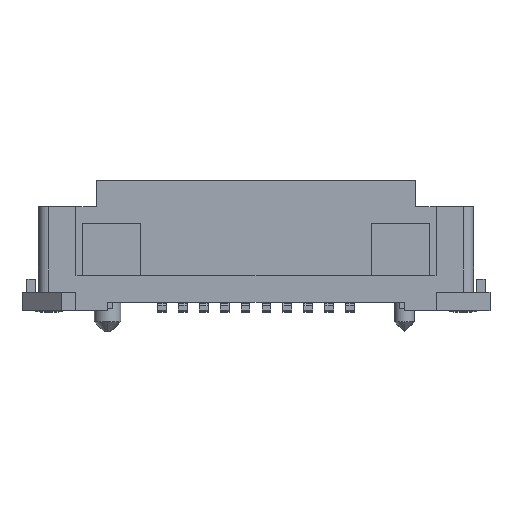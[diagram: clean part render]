
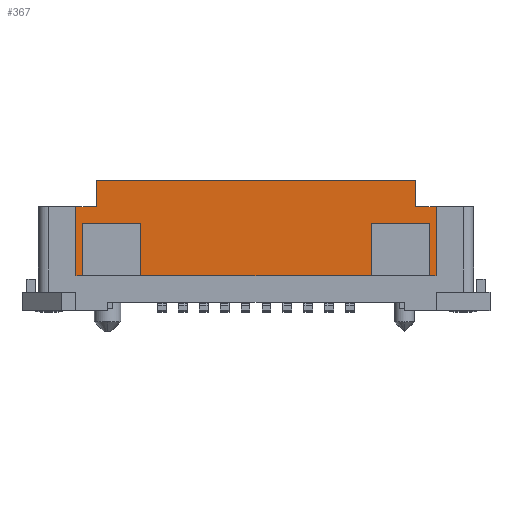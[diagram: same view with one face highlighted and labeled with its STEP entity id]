
A CAD part, top view. The second image highlights one B-rep face of the part: STEP entity #367.
In plain terms, the highlighted planar face has unit normal (0, 0, 1).
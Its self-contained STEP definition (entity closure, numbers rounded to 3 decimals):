
#367=ADVANCED_FACE('',(#1387),#907,.F.);
#907=PLANE('',#11824);
#1387=FACE_OUTER_BOUND('',#1944,.T.);
#1944=EDGE_LOOP('',(#3255,#3256,#3257,#3258,#3259,#3260,#3261,#3262,#3263,
#3264,#3265,#3266,#3267,#3268,#3269,#3270));
#3255=ORIENTED_EDGE('',*,*,#6511,.T.);
#3256=ORIENTED_EDGE('',*,*,#6991,.T.);
#3257=ORIENTED_EDGE('',*,*,#7051,.F.);
#3258=ORIENTED_EDGE('',*,*,#6879,.F.);
#3259=ORIENTED_EDGE('',*,*,#7052,.F.);
#3260=ORIENTED_EDGE('',*,*,#7053,.T.);
#3261=ORIENTED_EDGE('',*,*,#7048,.T.);
#3262=ORIENTED_EDGE('',*,*,#7040,.F.);
#3263=ORIENTED_EDGE('',*,*,#7054,.F.);
#3264=ORIENTED_EDGE('',*,*,#7034,.T.);
#3265=ORIENTED_EDGE('',*,*,#7045,.T.);
#3266=ORIENTED_EDGE('',*,*,#7036,.F.);
#3267=ORIENTED_EDGE('',*,*,#7055,.F.);
#3268=ORIENTED_EDGE('',*,*,#6877,.T.);
#3269=ORIENTED_EDGE('',*,*,#7056,.T.);
#3270=ORIENTED_EDGE('',*,*,#7027,.F.);
#5483=VERTEX_POINT('',#15466);
#5485=VERTEX_POINT('',#15469);
#5748=VERTEX_POINT('',#16215);
#5749=VERTEX_POINT('',#16217);
#5750=VERTEX_POINT('',#16221);
#5751=VERTEX_POINT('',#16222);
#5823=VERTEX_POINT('',#16435);
#5845=VERTEX_POINT('',#16503);
#5848=VERTEX_POINT('',#16515);
#5849=VERTEX_POINT('',#16517);
#5850=VERTEX_POINT('',#16521);
#5851=VERTEX_POINT('',#16522);
#5854=VERTEX_POINT('',#16530);
#5855=VERTEX_POINT('',#16531);
#5858=VERTEX_POINT('',#16544);
#5861=VERTEX_POINT('',#16555);
#6511=EDGE_CURVE('',#5485,#5483,#8843,.T.);
#6877=EDGE_CURVE('',#5749,#5748,#9155,.T.);
#6879=EDGE_CURVE('',#5750,#5751,#9157,.T.);
#6991=EDGE_CURVE('',#5483,#5823,#9267,.T.);
#7027=EDGE_CURVE('',#5485,#5845,#9303,.T.);
#7034=EDGE_CURVE('',#5849,#5848,#9310,.T.);
#7036=EDGE_CURVE('',#5850,#5851,#9312,.T.);
#7040=EDGE_CURVE('',#5854,#5855,#9316,.T.);
#7045=EDGE_CURVE('',#5848,#5851,#9321,.T.);
#7048=EDGE_CURVE('',#5858,#5855,#9324,.T.);
#7051=EDGE_CURVE('',#5751,#5823,#9327,.T.);
#7052=EDGE_CURVE('',#5861,#5750,#9328,.T.);
#7053=EDGE_CURVE('',#5861,#5858,#9329,.T.);
#7054=EDGE_CURVE('',#5849,#5854,#9330,.T.);
#7055=EDGE_CURVE('',#5749,#5850,#9331,.T.);
#7056=EDGE_CURVE('',#5748,#5845,#9332,.T.);
#8843=LINE('',#15468,#10264);
#9155=LINE('',#16216,#10576);
#9157=LINE('',#16220,#10578);
#9267=LINE('',#16436,#10688);
#9303=LINE('',#16504,#10724);
#9310=LINE('',#16516,#10731);
#9312=LINE('',#16520,#10733);
#9316=LINE('',#16529,#10737);
#9321=LINE('',#16541,#10742);
#9324=LINE('',#16547,#10745);
#9327=LINE('',#16553,#10748);
#9328=LINE('',#16554,#10749);
#9329=LINE('',#16556,#10750);
#9330=LINE('',#16557,#10751);
#9331=LINE('',#16558,#10752);
#9332=LINE('',#16559,#10753);
#10264=VECTOR('',#12480,1.);
#10576=VECTOR('',#13136,1.);
#10578=VECTOR('',#13140,1.);
#10688=VECTOR('',#13314,1.);
#10724=VECTOR('',#13370,1.);
#10731=VECTOR('',#13381,1.);
#10733=VECTOR('',#13385,1.);
#10737=VECTOR('',#13391,1.);
#10742=VECTOR('',#13402,1.);
#10745=VECTOR('',#13407,1.);
#10748=VECTOR('',#13414,1.);
#10749=VECTOR('',#13415,1.);
#10750=VECTOR('',#13416,1.);
#10751=VECTOR('',#13417,1.);
#10752=VECTOR('',#13418,1.);
#10753=VECTOR('',#13419,1.);
#11824=AXIS2_PLACEMENT_3D('',#16560,#13420,#13421);
#12480=DIRECTION('',(-1.,0.,0.));
#13136=DIRECTION('',(0.,1.,0.));
#13140=DIRECTION('',(0.,1.,0.));
#13314=DIRECTION('',(0.,-1.,0.));
#13370=DIRECTION('',(0.,-1.,0.));
#13381=DIRECTION('',(0.,1.,0.));
#13385=DIRECTION('',(0.,1.,0.));
#13391=DIRECTION('',(0.,1.,0.));
#13402=DIRECTION('',(1.,0.,0.));
#13407=DIRECTION('',(1.,0.,0.));
#13414=DIRECTION('',(1.,0.,0.));
#13415=DIRECTION('',(-1.,0.,0.));
#13416=DIRECTION('',(0.,1.,0.));
#13417=DIRECTION('',(-1.,0.,0.));
#13418=DIRECTION('',(-1.,0.,0.));
#13419=DIRECTION('',(-1.,0.,0.));
#13420=DIRECTION('',(0.,0.,-1.));
#13421=DIRECTION('',(0.,-1.,0.));
#15466=CARTESIAN_POINT('',(-4.86,1.975,2.4));
#15468=CARTESIAN_POINT('',(4.2,1.975,2.4));
#15469=CARTESIAN_POINT('',(4.86,1.975,2.4));
#16215=CARTESIAN_POINT('',(5.47,1.175,2.4));
#16216=CARTESIAN_POINT('',(5.47,-0.925,2.4));
#16217=CARTESIAN_POINT('',(5.47,-0.925,2.4));
#16220=CARTESIAN_POINT('',(-5.47,-0.925,2.4));
#16221=CARTESIAN_POINT('',(-5.47,-0.925,2.4));
#16222=CARTESIAN_POINT('',(-5.47,1.175,2.4));
#16435=CARTESIAN_POINT('',(-4.86,1.175,2.4));
#16436=CARTESIAN_POINT('',(-4.86,1.975,2.4));
#16503=CARTESIAN_POINT('',(4.86,1.175,2.4));
#16504=CARTESIAN_POINT('',(4.86,1.975,2.4));
#16515=CARTESIAN_POINT('',(3.5,0.675,2.4));
#16516=CARTESIAN_POINT('',(3.5,-0.925,2.4));
#16517=CARTESIAN_POINT('',(3.5,-0.925,2.4));
#16520=CARTESIAN_POINT('',(5.275,-0.925,2.4));
#16521=CARTESIAN_POINT('',(5.275,-0.925,2.4));
#16522=CARTESIAN_POINT('',(5.275,0.675,2.4));
#16529=CARTESIAN_POINT('',(-3.5,-0.925,2.4));
#16530=CARTESIAN_POINT('',(-3.5,-0.925,2.4));
#16531=CARTESIAN_POINT('',(-3.5,0.675,2.4));
#16541=CARTESIAN_POINT('',(3.5,0.675,2.4));
#16544=CARTESIAN_POINT('',(-5.275,0.675,2.4));
#16547=CARTESIAN_POINT('',(-5.275,0.675,2.4));
#16553=CARTESIAN_POINT('',(-5.47,1.175,2.4));
#16554=CARTESIAN_POINT('',(-5.275,-0.925,2.4));
#16555=CARTESIAN_POINT('',(-5.275,-0.925,2.4));
#16556=CARTESIAN_POINT('',(-5.275,-0.925,2.4));
#16557=CARTESIAN_POINT('',(3.5,-0.925,2.4));
#16558=CARTESIAN_POINT('',(5.47,-0.925,2.4));
#16559=CARTESIAN_POINT('',(5.47,1.175,2.4));
#16560=CARTESIAN_POINT('',(7.11,-0.925,2.4));
